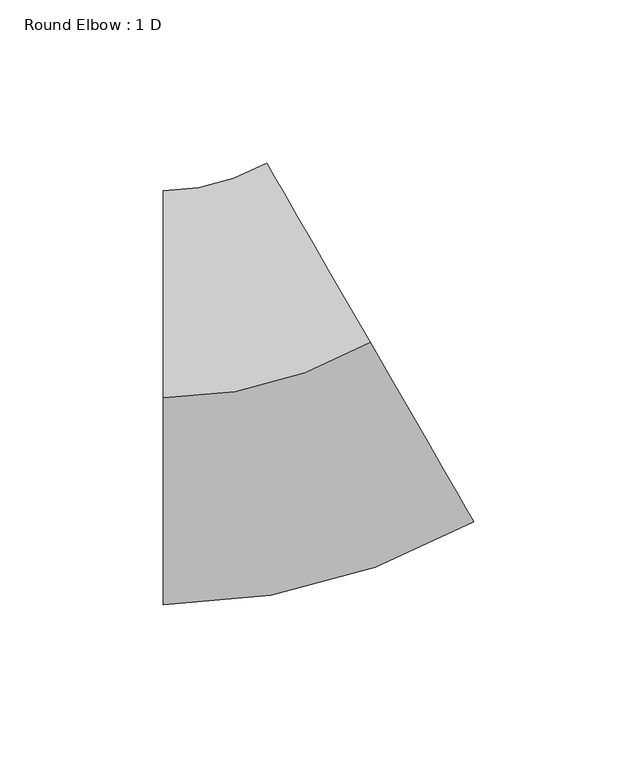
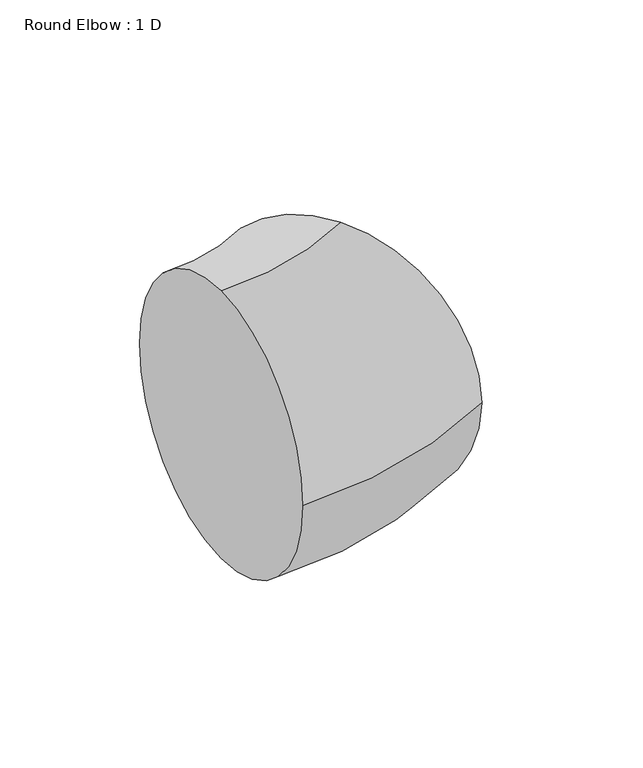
"""IFC4 building model written with IfcOpenShell, lengths in millimetres: duct fitting geometry, Round Elbow : 1 D."""

from ifc_helpers import new_model, si_unit, point, frame, origin, place, context, project, spatial, circle_curve, ellipse_curve, trimmed, source, transform, mapped, element, save
from ifc_brep_helpers import plane_surface, revolved_surface, advanced_brep


def round_elbow_1_d_3986cbc1(model_context):
    return source(origin(), model_context, "Body", "AdvancedBrep", [
        advanced_brep(
        [(-34.0295474, 0.0, 63.5), (-34.0295474, 63.5, 0.0), (-34.0295474, 0.0, -63.5), (-34.0295474, -63.5, 0.0), (29.4704526, 17.0147737, 63.5), (61.2204526, -37.9778394, 0.0), (29.4704526, 17.0147737, -63.5), (-2.2795474, 72.0073869, 0.0)],
        [
            (0, 1, circle_curve(frame((-34.0295474, 0.0, 0.0), z_axis=(-1.0, 0.0, 0.0), x_axis=(0.0, 1.0, 0.0)), 63.5)),
            (1, 2, circle_curve(frame((-34.0295474, 0.0, 0.0), z_axis=(-1.0, 0.0, 0.0), x_axis=(0.0, 1.0, 0.0)), 63.5)),
            (2, 3, circle_curve(frame((-34.0295474, 0.0, 0.0), z_axis=(-1.0, 0.0, 0.0), x_axis=(0.0, 1.0, 0.0)), 63.5)),
            (3, 0, circle_curve(frame((-34.0295474, 0.0, 0.0), z_axis=(-1.0, 0.0, 0.0), x_axis=(0.0, 1.0, 0.0)), 63.5)),
            (4, 5, circle_curve(frame((29.4704526, 17.0147737, 0.0), z_axis=(0.8660254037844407, 0.4999999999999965, 0.0), x_axis=(-0.4999999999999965, 0.8660254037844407, 0.0)), 63.5)),
            (5, 6, circle_curve(frame((29.4704526, 17.0147737, 0.0), z_axis=(0.8660254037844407, 0.4999999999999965, 0.0), x_axis=(-0.4999999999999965, 0.8660254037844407, 0.0)), 63.5)),
            (6, 7, circle_curve(frame((29.4704526, 17.0147737, 0.0), z_axis=(0.8660254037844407, 0.4999999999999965, 0.0), x_axis=(-0.4999999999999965, 0.8660254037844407, 0.0)), 63.5)),
            (7, 4, circle_curve(frame((29.4704526, 17.0147737, 0.0), z_axis=(0.8660254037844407, 0.4999999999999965, 0.0), x_axis=(-0.4999999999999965, 0.8660254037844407, 0.0)), 63.5)),
            (7, 1, circle_curve(frame((-34.0295474, 127.0, 0.0), z_axis=(0.0, 0.0, -1.0), x_axis=(0.0, -1.0, 0.0)), 63.5)),
            (0, 4, circle_curve(frame((-34.0295474, 127.0, 63.5), z_axis=(0.0, 0.0, 1.0), x_axis=(0.0, -1.0, 0.0)), 127.0)),
            (6, 2, circle_curve(frame((-34.0295474, 127.0, -63.5), z_axis=(0.0, 0.0, -1.0), x_axis=(0.0, -1.0, 0.0)), 127.0)),
            (5, 3, circle_curve(frame((-34.0295474, 127.0, 0.0), z_axis=(0.0, 0.0, -1.0), x_axis=(0.0, -1.0, 0.0)), 190.5)),
        ],
        [
            plane_surface(frame((-34.0295474, 0.0, 0.0), z_axis=(-1.0, 0.0, 0.0), x_axis=(0.0, 0.0, 1.0))),
            plane_surface(frame((29.4704526, 17.0147737, 0.0), z_axis=(0.8660254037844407, 0.49999999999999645, 0.0), x_axis=(0.0, 0.0, 1.0))),
            revolved_surface(trimmed(ellipse_curve(frame((-34.0295474, 0.0, 0.0), z_axis=(-1.0, 0.0, 0.0), x_axis=(0.0, 1.0, 0.0)), 63.5, 63.5), [point((-34.0295474, 0.0, 63.5))], [point((-34.0295474, 63.5, 0.0))], True, "CARTESIAN"), (-34.0295474, 127.0, 0.0), (0.0, 0.0, 1.0)),
            revolved_surface(trimmed(ellipse_curve(frame((-34.0295474, 0.0, 0.0), z_axis=(-1.0, 0.0, 0.0), x_axis=(0.0, 1.0, 0.0)), 63.5, 63.5), [point((-34.0295474, 63.5, 0.0))], [point((-34.0295474, 0.0, -63.5))], True, "CARTESIAN"), (-34.0295474, 127.0, 0.0), (0.0, 0.0, 1.0)),
            revolved_surface(trimmed(ellipse_curve(frame((-34.0295474, 0.0, 0.0), z_axis=(-1.0, 0.0, 0.0), x_axis=(0.0, 1.0, 0.0)), 63.5, 63.5), [point((-34.0295474, 0.0, -63.5))], [point((-34.0295474, -63.5, 0.0))], True, "CARTESIAN"), (-34.0295474, 127.0, 0.0), (0.0, 0.0, 1.0)),
            revolved_surface(trimmed(ellipse_curve(frame((-34.0295474, 0.0, 0.0), z_axis=(-1.0, 0.0, 0.0), x_axis=(0.0, 1.0, 0.0)), 63.5, 63.5), [point((-34.0295474, -63.5, 0.0))], [point((-34.0295474, 0.0, 63.5))], True, "CARTESIAN"), (-34.0295474, 127.0, 0.0), (0.0, 0.0, 1.0)),
        ],
        [
            (0, [[1, 2, 3, 4]]),
            (1, [[5, 6, 7, 8]]),
            (2, [[9, -1, 10, -8]]),
            (3, [[11, -2, -9, -7]]),
            (4, [[12, -3, -11, -6]]),
            (5, [[-10, -4, -12, -5]]),
        ],
    ),
    ])


if __name__ == "__main__":
    model = new_model("IFC4")
    model_context = context("Model", 3, world=origin())
    ifc_project = project(units=[si_unit("LENGTHUNIT", "METRE", prefix="MILLI")], contexts=[model_context])
    site = spatial("IfcSite", under=ifc_project)
    building = spatial("IfcBuilding", under=site)
    placement = place(None, origin())
    round_elbow_1_d_shape = round_elbow_1_d_3986cbc1(model_context)
    element("IfcDuctFitting", 1, ObjectType="Round Elbow : 1 D", at=placement, inside=building, context=model_context, shape_type="MappedRepresentation", body=[
        mapped(round_elbow_1_d_shape, transform((0.0, 0.0, 0.0), x_axis=(1.0, 0.0, 0.0), y_axis=(0.0, 1.0, 0.0), z_axis=(0.0, 0.0, 1.0))),
    ])
    save(model, "model.ifc")
